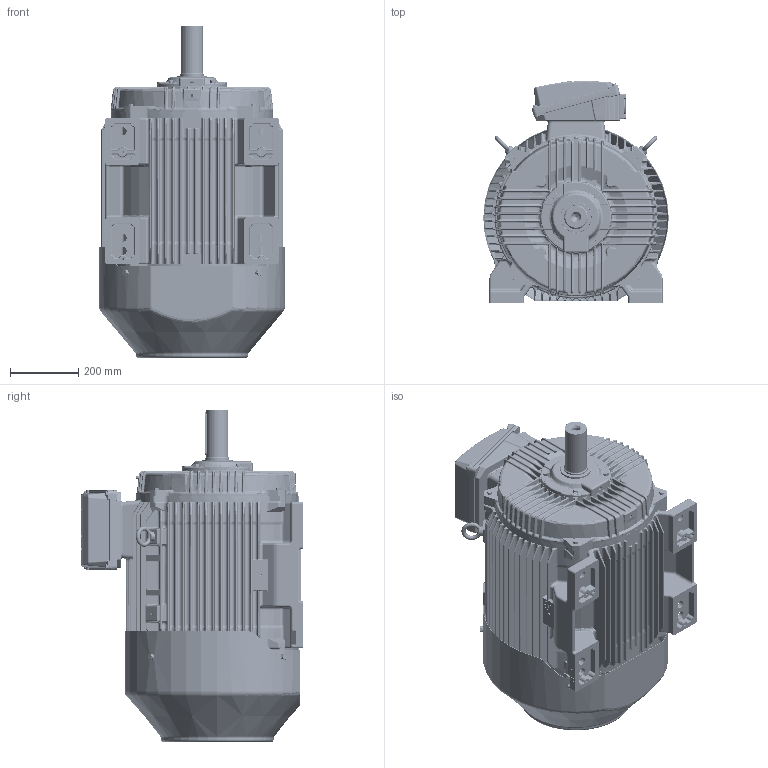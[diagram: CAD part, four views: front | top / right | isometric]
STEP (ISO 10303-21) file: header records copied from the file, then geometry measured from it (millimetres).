
FILE_DESCRIPTION (( 'STEP AP203' ), '1' );
FILE_NAME ('0225000395_RevA.STEP', '2023-04-26T06:44:40', ( '' ), ( '' ), 'SwSTEP 2.0', 'SolidWorks 2021', '' );
FILE_SCHEMA (( 'CONFIG_CONTROL_DESIGN' ));
Length unit declared in the file: inch
Products named in the file (1): 0225000395_RevA
Bounding box: 542 x 648.06 x 970.42 mm (x, y, z)
Volume: 33126553.3 mm3; surface area: 6494187.6 mm2
Topology: 73 solids, 74 shells, 14378 faces, 35685 edges, 21138 vertices
Faces by surface type: cylinder 4260, bspline 4184, plane 2501, torus 1676, cone 1337, sphere 420
Entity records: 594828 total; most frequent: CARTESIAN_POINT 284639, ORIENTED_EDGE 70358, DIRECTION 59609, EDGE_CURVE 35179, AXIS2_PLACEMENT_3D 25040, VERTEX_POINT 21085, EDGE_LOOP 15434, CIRCLE 14845
